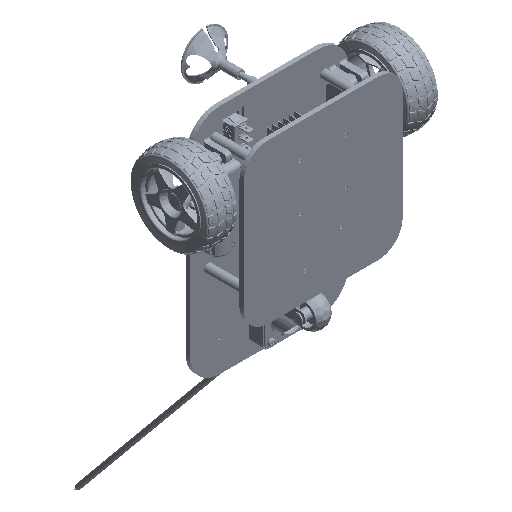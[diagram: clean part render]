
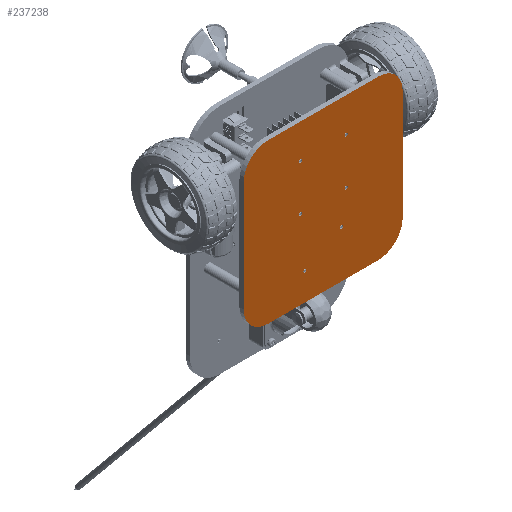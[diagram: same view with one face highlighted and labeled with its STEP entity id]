
A CAD part, isometric view. The second image highlights one B-rep face of the part: STEP entity #237238.
In plain terms, the highlighted planar face has unit normal (0, -1, 0).
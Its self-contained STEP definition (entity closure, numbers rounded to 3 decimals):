
#35505=LINE('',#490304,#59028);
#35508=LINE('',#490312,#59031);
#35511=LINE('',#490320,#59034);
#35513=LINE('',#490326,#59036);
#59028=VECTOR('',#314205,10.);
#59031=VECTOR('',#314214,10.);
#59034=VECTOR('',#314223,10.);
#59036=VECTOR('',#314231,10.);
#63474=FACE_BOUND('',#89509,.T.);
#63475=FACE_BOUND('',#89510,.T.);
#63476=FACE_BOUND('',#89511,.T.);
#63477=FACE_BOUND('',#89512,.T.);
#63478=FACE_BOUND('',#89513,.T.);
#63479=FACE_BOUND('',#89514,.T.);
#75421=FACE_OUTER_BOUND('',#89508,.T.);
#89508=EDGE_LOOP('',(#217547,#217548,#217549,#217550,#217551,#217552,#217553,
#217554));
#89509=EDGE_LOOP('',(#217555));
#89510=EDGE_LOOP('',(#217556));
#89511=EDGE_LOOP('',(#217557));
#89512=EDGE_LOOP('',(#217558));
#89513=EDGE_LOOP('',(#217559));
#89514=EDGE_LOOP('',(#217560));
#95895=CIRCLE('',#255620,1.3);
#95896=CIRCLE('',#255622,1.3);
#95897=CIRCLE('',#255624,1.3);
#95898=CIRCLE('',#255626,1.3);
#95899=CIRCLE('',#255628,1.3);
#95900=CIRCLE('',#255630,1.3);
#95945=CIRCLE('',#255704,20.);
#95946=CIRCLE('',#255707,20.);
#95947=CIRCLE('',#255710,20.);
#95948=CIRCLE('',#255713,20.);
#118766=VERTEX_POINT('',#490152);
#118767=VERTEX_POINT('',#490156);
#118768=VERTEX_POINT('',#490160);
#118769=VERTEX_POINT('',#490164);
#118770=VERTEX_POINT('',#490168);
#118771=VERTEX_POINT('',#490172);
#118808=VERTEX_POINT('',#490296);
#118809=VERTEX_POINT('',#490298);
#118810=VERTEX_POINT('',#490302);
#118811=VERTEX_POINT('',#490306);
#118812=VERTEX_POINT('',#490310);
#118813=VERTEX_POINT('',#490314);
#118814=VERTEX_POINT('',#490318);
#118815=VERTEX_POINT('',#490322);
#152732=EDGE_CURVE('',#118766,#118766,#95895,.T.);
#152734=EDGE_CURVE('',#118767,#118767,#95896,.T.);
#152736=EDGE_CURVE('',#118768,#118768,#95897,.T.);
#152738=EDGE_CURVE('',#118769,#118769,#95898,.T.);
#152740=EDGE_CURVE('',#118770,#118770,#95899,.T.);
#152742=EDGE_CURVE('',#118771,#118771,#95900,.T.);
#152800=EDGE_CURVE('',#118808,#118809,#95945,.T.);
#152803=EDGE_CURVE('',#118810,#118808,#35505,.T.);
#152805=EDGE_CURVE('',#118811,#118810,#95946,.T.);
#152807=EDGE_CURVE('',#118812,#118811,#35508,.T.);
#152809=EDGE_CURVE('',#118813,#118812,#95947,.T.);
#152811=EDGE_CURVE('',#118814,#118813,#35511,.T.);
#152813=EDGE_CURVE('',#118815,#118814,#95948,.T.);
#152814=EDGE_CURVE('',#118809,#118815,#35513,.T.);
#217547=ORIENTED_EDGE('',*,*,#152800,.F.);
#217548=ORIENTED_EDGE('',*,*,#152803,.F.);
#217549=ORIENTED_EDGE('',*,*,#152805,.F.);
#217550=ORIENTED_EDGE('',*,*,#152807,.F.);
#217551=ORIENTED_EDGE('',*,*,#152809,.F.);
#217552=ORIENTED_EDGE('',*,*,#152811,.F.);
#217553=ORIENTED_EDGE('',*,*,#152813,.F.);
#217554=ORIENTED_EDGE('',*,*,#152814,.F.);
#217555=ORIENTED_EDGE('',*,*,#152742,.T.);
#217556=ORIENTED_EDGE('',*,*,#152740,.T.);
#217557=ORIENTED_EDGE('',*,*,#152738,.T.);
#217558=ORIENTED_EDGE('',*,*,#152736,.T.);
#217559=ORIENTED_EDGE('',*,*,#152734,.T.);
#217560=ORIENTED_EDGE('',*,*,#152732,.T.);
#225296=PLANE('',#255715);
#237238=ADVANCED_FACE('',(#75421,#63474,#63475,#63476,#63477,#63478,#63479),
#225296,.T.);
#255620=AXIS2_PLACEMENT_3D('',#490154,#314013,#314014);
#255622=AXIS2_PLACEMENT_3D('',#490158,#314018,#314019);
#255624=AXIS2_PLACEMENT_3D('',#490162,#314023,#314024);
#255626=AXIS2_PLACEMENT_3D('',#490166,#314028,#314029);
#255628=AXIS2_PLACEMENT_3D('',#490170,#314033,#314034);
#255630=AXIS2_PLACEMENT_3D('',#490174,#314038,#314039);
#255704=AXIS2_PLACEMENT_3D('',#490299,#314199,#314200);
#255707=AXIS2_PLACEMENT_3D('',#490308,#314209,#314210);
#255710=AXIS2_PLACEMENT_3D('',#490316,#314218,#314219);
#255713=AXIS2_PLACEMENT_3D('',#490324,#314227,#314228);
#255715=AXIS2_PLACEMENT_3D('',#490327,#314232,#314233);
#314013=DIRECTION('center_axis',(0.,1.,0.));
#314014=DIRECTION('ref_axis',(-1.,0.,0.));
#314018=DIRECTION('center_axis',(0.,1.,0.));
#314019=DIRECTION('ref_axis',(-1.,0.,0.));
#314023=DIRECTION('center_axis',(0.,1.,0.));
#314024=DIRECTION('ref_axis',(-1.,0.,0.));
#314028=DIRECTION('center_axis',(0.,1.,0.));
#314029=DIRECTION('ref_axis',(-1.,0.,0.));
#314033=DIRECTION('center_axis',(0.,1.,0.));
#314034=DIRECTION('ref_axis',(-1.,0.,0.));
#314038=DIRECTION('center_axis',(0.,1.,0.));
#314039=DIRECTION('ref_axis',(-1.,0.,0.));
#314199=DIRECTION('center_axis',(0.,1.,0.));
#314200=DIRECTION('ref_axis',(-0.707,0.,-0.707));
#314205=DIRECTION('',(-1.,0.,0.));
#314209=DIRECTION('center_axis',(0.,1.,0.));
#314210=DIRECTION('ref_axis',(0.707,0.,-0.707));
#314214=DIRECTION('',(0.,0.,-1.));
#314218=DIRECTION('center_axis',(0.,1.,0.));
#314219=DIRECTION('ref_axis',(0.707,0.,0.707));
#314223=DIRECTION('',(1.,0.,0.));
#314227=DIRECTION('center_axis',(0.,1.,0.));
#314228=DIRECTION('ref_axis',(-0.707,0.,0.707));
#314231=DIRECTION('',(0.,0.,1.));
#314232=DIRECTION('center_axis',(0.,-1.,0.));
#314233=DIRECTION('ref_axis',(-1.,0.,0.));
#490152=CARTESIAN_POINT('',(191.352,-34.648,-28.405));
#490154=CARTESIAN_POINT('Origin',(190.052,-34.648,-28.405));
#490156=CARTESIAN_POINT('',(153.852,-34.648,-28.405));
#490158=CARTESIAN_POINT('Origin',(152.552,-34.648,-28.405));
#490160=CARTESIAN_POINT('',(187.602,-34.648,-54.405));
#490162=CARTESIAN_POINT('Origin',(186.302,-34.648,-54.405));
#490164=CARTESIAN_POINT('',(191.352,-34.648,9.095));
#490166=CARTESIAN_POINT('Origin',(190.052,-34.648,9.095));
#490168=CARTESIAN_POINT('',(153.852,-34.648,9.095));
#490170=CARTESIAN_POINT('Origin',(152.552,-34.648,9.095));
#490172=CARTESIAN_POINT('',(157.602,-34.648,-70.405));
#490174=CARTESIAN_POINT('Origin',(156.302,-34.648,-70.405));
#490296=CARTESIAN_POINT('',(126.302,-34.648,-92.905));
#490298=CARTESIAN_POINT('',(106.302,-34.648,-72.905));
#490299=CARTESIAN_POINT('Origin',(126.302,-34.648,-72.905));
#490302=CARTESIAN_POINT('',(216.302,-34.648,-92.905));
#490304=CARTESIAN_POINT('',(236.302,-34.648,-92.905));
#490306=CARTESIAN_POINT('',(236.302,-34.648,-72.905));
#490308=CARTESIAN_POINT('Origin',(216.302,-34.648,-72.905));
#490310=CARTESIAN_POINT('',(236.302,-34.648,17.095));
#490312=CARTESIAN_POINT('',(236.302,-34.648,37.095));
#490314=CARTESIAN_POINT('',(216.302,-34.648,37.095));
#490316=CARTESIAN_POINT('Origin',(216.302,-34.648,17.095));
#490318=CARTESIAN_POINT('',(126.302,-34.648,37.095));
#490320=CARTESIAN_POINT('',(106.302,-34.648,37.095));
#490322=CARTESIAN_POINT('',(106.302,-34.648,17.095));
#490324=CARTESIAN_POINT('Origin',(126.302,-34.648,17.095));
#490326=CARTESIAN_POINT('',(106.302,-34.648,-92.905));
#490327=CARTESIAN_POINT('Origin',(171.302,-34.648,-27.905));
